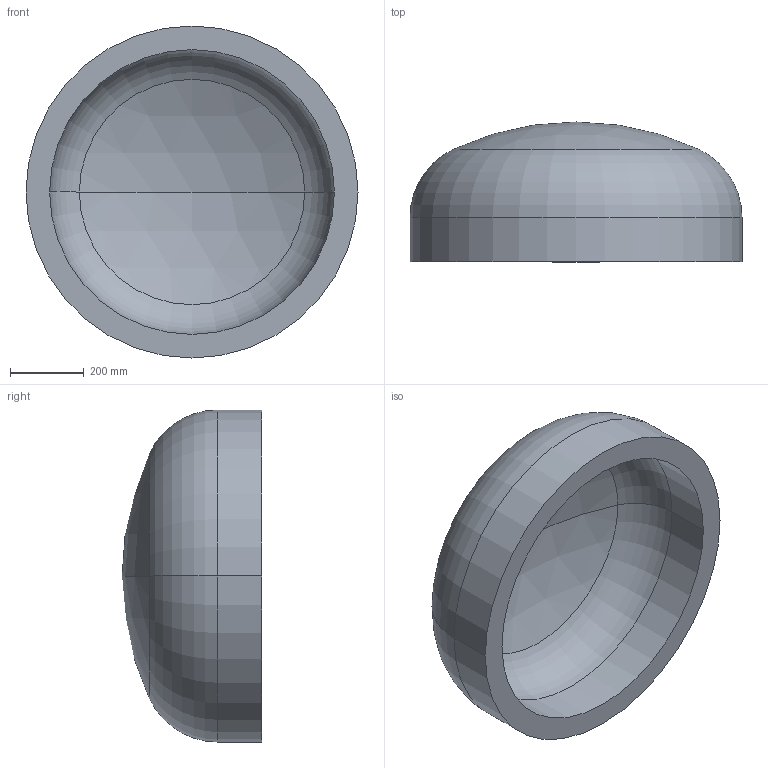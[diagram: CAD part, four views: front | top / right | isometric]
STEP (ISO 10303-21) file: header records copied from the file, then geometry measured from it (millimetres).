
FILE_DESCRIPTION (( 'STEP AP203' ), '1' );
FILE_NAME ('DIN 28013 Korbbogenform_-_Boden DIN 28013 - 900 x 120 - I - s=64.step', '2016-07-01T08:34:46', ( '' ), ( '' ), 'SwSTEP 2.0', 'SolidWorks 2013', '' );
FILE_SCHEMA (( 'CONFIG_CONTROL_DESIGN' ));
Length unit declared in the file: millimetre
Products named in the file (1): DIN 28013 Korbbogenform_-_Boden DIN 28013 - 900 x 120 - I - s=64
Bounding box: 900 x 378.75 x 900 mm (x, y, z)
Volume: 71822496.1 mm3; surface area: 2421119 mm2
Topology: 1 solids, 1 shells, 13 faces, 24 edges, 14 vertices
Faces by surface type: torus 4, cylinder 4, sphere 4, plane 1
Entity records: 407 total; most frequent: DIRECTION 72, CARTESIAN_POINT 52, ORIENTED_EDGE 48, AXIS2_PLACEMENT_3D 34, EDGE_CURVE 24, CIRCLE 20, VERTEX_POINT 14, EDGE_LOOP 14
